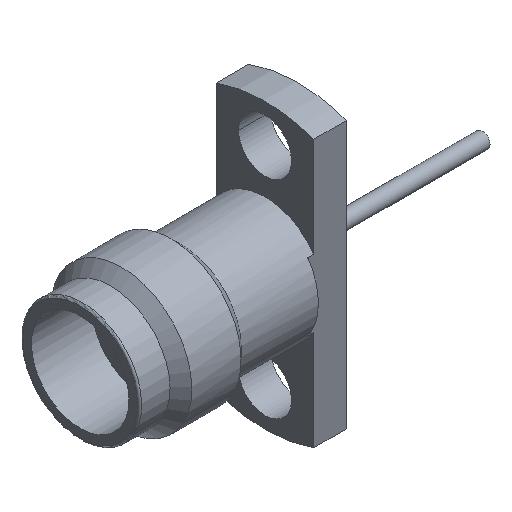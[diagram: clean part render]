
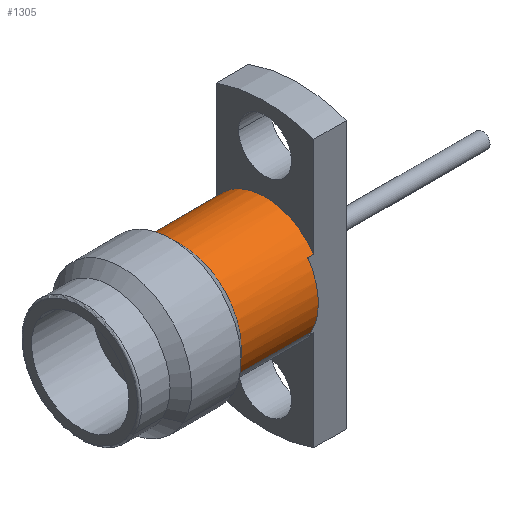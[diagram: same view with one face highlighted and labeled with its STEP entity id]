
A CAD part, isometric view. The second image highlights one B-rep face of the part: STEP entity #1305.
In plain terms, the highlighted cylindrical face has radius 2.925 mm (diameter 5.85 mm), a partial arc.
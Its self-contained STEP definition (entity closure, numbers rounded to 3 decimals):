
#1029=CARTESIAN_POINT('Axis2P3D Location',(12.899,0.,0.)) ;
#1163=CARTESIAN_POINT('Vertex',(5.,2.567,1.402)) ;
#1170=CARTESIAN_POINT('Vertex',(5.,-2.567,-1.402)) ;
#1190=CARTESIAN_POINT('Axis2P3D Location',(5.,0.,0.)) ;
#1222=CARTESIAN_POINT('Vertex',(8.8,-2.567,-1.402)) ;
#1225=CARTESIAN_POINT('Line Origine',(12.899,-2.567,-1.402)) ;
#1230=CARTESIAN_POINT('Line Origine',(12.899,2.567,1.402)) ;
#1234=CARTESIAN_POINT('Vertex',(8.8,2.567,1.402)) ;
#1262=CARTESIAN_POINT('Axis2P3D Location',(9.1,0.,0.)) ;
#1266=CARTESIAN_POINT('Vertex',(9.1,2.4,1.672)) ;
#1268=CARTESIAN_POINT('Vertex',(9.1,-2.4,1.672)) ;
#1271=CARTESIAN_POINT('Line Origine',(12.899,2.4,1.672)) ;
#1275=CARTESIAN_POINT('Vertex',(8.8,2.4,1.672)) ;
#1278=CARTESIAN_POINT('Axis2P3D Location',(8.8,0.,0.)) ;
#1283=CARTESIAN_POINT('Axis2P3D Location',(8.8,0.,0.)) ;
#1287=CARTESIAN_POINT('Vertex',(8.8,-2.4,1.672)) ;
#1290=CARTESIAN_POINT('Line Origine',(12.899,-2.4,1.672)) ;
#1030=DIRECTION('Axis2P3D Direction',(1.,0.,0.)) ;
#1031=DIRECTION('Axis2P3D XDirection',(0.,0.878,0.479)) ;
#1191=DIRECTION('Axis2P3D Direction',(-1.,0.,0.)) ;
#1226=DIRECTION('Vector Direction',(1.,0.,0.)) ;
#1231=DIRECTION('Vector Direction',(1.,0.,0.)) ;
#1263=DIRECTION('Axis2P3D Direction',(1.,0.,0.)) ;
#1272=DIRECTION('Vector Direction',(1.,0.,0.)) ;
#1279=DIRECTION('Axis2P3D Direction',(1.,0.,0.)) ;
#1284=DIRECTION('Axis2P3D Direction',(1.,0.,0.)) ;
#1291=DIRECTION('Vector Direction',(1.,0.,0.)) ;
#1032=AXIS2_PLACEMENT_3D('Cylinder Axis2P3D',#1029,#1030,#1031) ;
#1192=AXIS2_PLACEMENT_3D('Circle Axis2P3D',#1190,#1191,$) ;
#1264=AXIS2_PLACEMENT_3D('Circle Axis2P3D',#1262,#1263,$) ;
#1280=AXIS2_PLACEMENT_3D('Circle Axis2P3D',#1278,#1279,$) ;
#1285=AXIS2_PLACEMENT_3D('Circle Axis2P3D',#1283,#1284,$) ;
#1296=ORIENTED_EDGE('',*,*,#1270,.F.) ;
#1297=ORIENTED_EDGE('',*,*,#1277,.T.) ;
#1298=ORIENTED_EDGE('',*,*,#1282,.F.) ;
#1299=ORIENTED_EDGE('',*,*,#1236,.F.) ;
#1300=ORIENTED_EDGE('',*,*,#1194,.T.) ;
#1301=ORIENTED_EDGE('',*,*,#1229,.T.) ;
#1302=ORIENTED_EDGE('',*,*,#1289,.F.) ;
#1303=ORIENTED_EDGE('',*,*,#1294,.F.) ;
#1227=VECTOR('Line Direction',#1226,1.) ;
#1232=VECTOR('Line Direction',#1231,1.) ;
#1273=VECTOR('Line Direction',#1272,1.) ;
#1292=VECTOR('Line Direction',#1291,1.) ;
#1305=ADVANCED_FACE('',(#1304),#1033,.T.) ;
#1193=CIRCLE('generated circle',#1192,2.925) ;
#1265=CIRCLE('generated circle',#1264,2.925) ;
#1281=CIRCLE('generated circle',#1280,2.925) ;
#1286=CIRCLE('generated circle',#1285,2.925) ;
#1033=CYLINDRICAL_SURFACE('generated cylinder',#1032,2.925) ;
#1194=EDGE_CURVE('',#1164,#1171,#1193,.F.) ;
#1229=EDGE_CURVE('',#1171,#1223,#1228,.T.) ;
#1236=EDGE_CURVE('',#1164,#1235,#1233,.T.) ;
#1270=EDGE_CURVE('',#1267,#1269,#1265,.T.) ;
#1277=EDGE_CURVE('',#1267,#1276,#1274,.F.) ;
#1282=EDGE_CURVE('',#1235,#1276,#1281,.T.) ;
#1289=EDGE_CURVE('',#1288,#1223,#1286,.T.) ;
#1294=EDGE_CURVE('',#1269,#1288,#1293,.F.) ;
#1295=EDGE_LOOP('',(#1296,#1297,#1298,#1299,#1300,#1301,#1302,#1303)) ;
#1304=FACE_OUTER_BOUND('',#1295,.T.) ;
#1228=LINE('Line',#1225,#1227) ;
#1233=LINE('Line',#1230,#1232) ;
#1274=LINE('Line',#1271,#1273) ;
#1293=LINE('Line',#1290,#1292) ;
#1164=VERTEX_POINT('',#1163) ;
#1171=VERTEX_POINT('',#1170) ;
#1223=VERTEX_POINT('',#1222) ;
#1235=VERTEX_POINT('',#1234) ;
#1267=VERTEX_POINT('',#1266) ;
#1269=VERTEX_POINT('',#1268) ;
#1276=VERTEX_POINT('',#1275) ;
#1288=VERTEX_POINT('',#1287) ;
